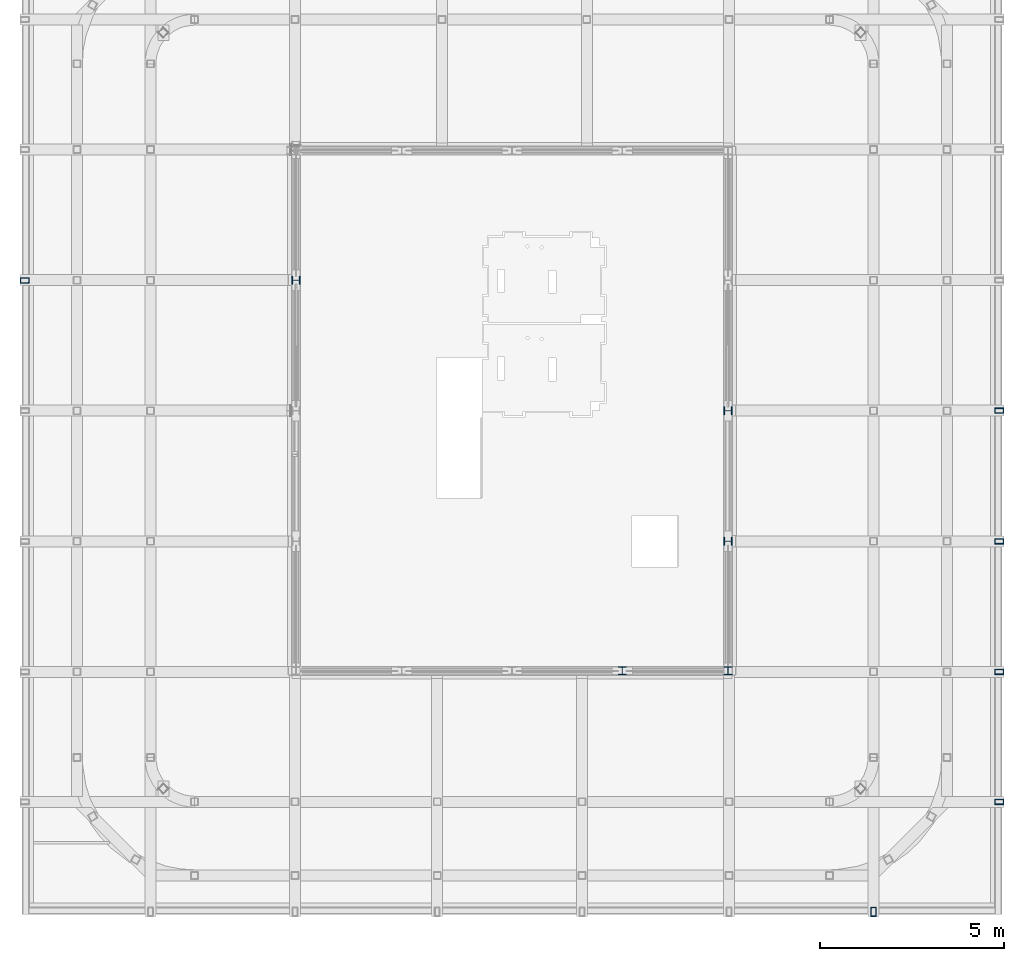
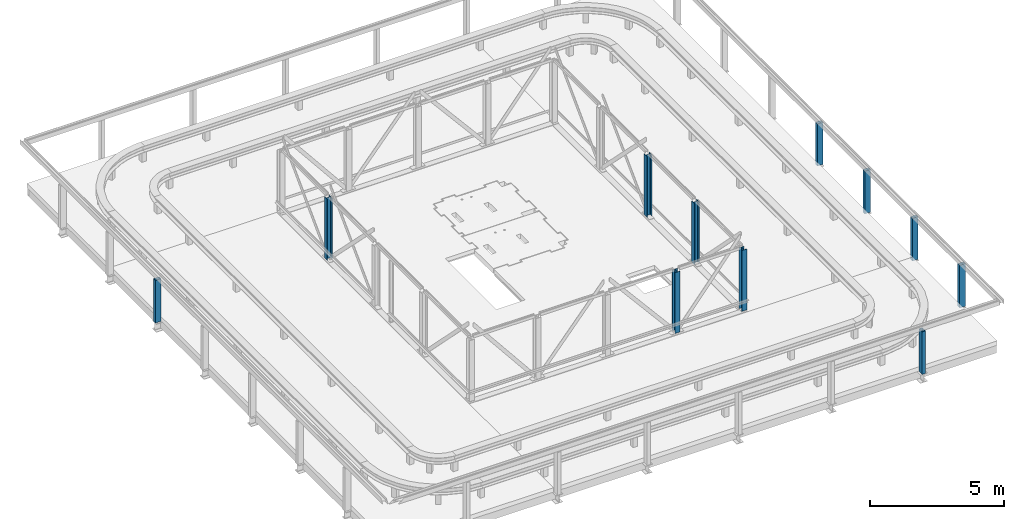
# One storey, part 3 of 27: 11 columns.
"""IFC2X3 building model written with IfcOpenShell, lengths in millimetres."""

from ifc_helpers import new_model, entity, si_unit, converted_unit, derived_unit, direction, frame, frame_2d, origin, place, context, subcontext, project, spatial, polyline, circle_curve, parameter, trimmed, segment, composite_curve, i_section, outline, extrude, source, transform, mapped, material, type_object, type_shapes, element, save


model = new_model("IFC2X3")

# Units and contexts
model_context = context("Model", 3, precision=0.01, world=origin(), true_north=direction((6.12303176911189e-17, 1.0)))
body_context = subcontext(model_context, "Body", "Model", "MODEL_VIEW")
ifc_project = project(units=[si_unit("LENGTHUNIT", "METRE", prefix="MILLI"), si_unit("AREAUNIT", "SQUARE_METRE"), si_unit("VOLUMEUNIT", "CUBIC_METRE"), converted_unit("PLANEANGLEUNIT", "DEGREE", entity("IfcRatioMeasure", 0.0174532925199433), si_unit("PLANEANGLEUNIT", "RADIAN"), dimensions=[0, 0, 0, 0, 0, 0, 0]), si_unit("MASSUNIT", "GRAM", prefix="KILO"), derived_unit("MASSDENSITYUNIT", [(si_unit("MASSUNIT", "GRAM", prefix="KILO"), 1), (si_unit("LENGTHUNIT", "METRE"), -3)]), si_unit("TIMEUNIT", "SECOND"), si_unit("FREQUENCYUNIT", "HERTZ"), si_unit("THERMODYNAMICTEMPERATUREUNIT", "DEGREE_CELSIUS"), derived_unit("THERMALTRANSMITTANCEUNIT", [(si_unit("MASSUNIT", "GRAM", prefix="KILO"), 1), (si_unit("THERMODYNAMICTEMPERATUREUNIT", "KELVIN"), -1), (si_unit("TIMEUNIT", "SECOND"), -3)]), derived_unit("VOLUMETRICFLOWRATEUNIT", [(si_unit("LENGTHUNIT", "METRE"), 3), (si_unit("TIMEUNIT", "SECOND"), -1)]), si_unit("ELECTRICCURRENTUNIT", "AMPERE"), si_unit("ELECTRICVOLTAGEUNIT", "VOLT"), si_unit("POWERUNIT", "WATT"), si_unit("FORCEUNIT", "NEWTON", prefix="KILO"), si_unit("ILLUMINANCEUNIT", "LUX"), si_unit("LUMINOUSFLUXUNIT", "LUMEN"), si_unit("LUMINOUSINTENSITYUNIT", "CANDELA"), derived_unit("USERDEFINED", [(si_unit("MASSUNIT", "GRAM", prefix="KILO"), -1), (si_unit("LENGTHUNIT", "METRE"), -2), (si_unit("TIMEUNIT", "SECOND"), 3), (si_unit("LUMINOUSFLUXUNIT", "LUMEN"), 1)]), derived_unit("LINEARVELOCITYUNIT", [(si_unit("LENGTHUNIT", "METRE"), 1), (si_unit("TIMEUNIT", "SECOND"), -1)]), si_unit("PRESSUREUNIT", "PASCAL"), derived_unit("USERDEFINED", [(si_unit("LENGTHUNIT", "METRE"), -2), (si_unit("MASSUNIT", "GRAM", prefix="KILO"), 1), (si_unit("TIMEUNIT", "SECOND"), -2)])], contexts=[model_context])

# Site, building, storey
site_placement = place(None, origin())
site = spatial("IfcSite", under=ifc_project, at=site_placement, Name="Default", CompositionType="ELEMENT")
building_placement = place(site_placement, origin())
building = spatial("IfcBuilding", under=site, at=building_placement, Name="niet gebruiken", CompositionType="ELEMENT")
storey_placement = place(building_placement, frame((0.0, 0.0, 187640.0)))
storey = spatial("IfcBuildingStorey", under=building, at=storey_placement, Name="59 negenenvijftigste verdieping", CompositionType="ELEMENT", Elevation=187640.0)

# Columns
ifc_material = material(Name="NLRS_h2_staal")
column_type_1 = type_object("IfcColumnType", Name="kolom HEB 220", PredefinedType="COLUMN", material=ifc_material)
shared_shape_1 = source(origin(), body_context, "Body", "SweptSolid", [
    extrude(i_section(OverallWidth=220.000000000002, OverallDepth=219.999999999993, WebThickness=9.49999999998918, FlangeThickness=16.0000000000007, FilletRadius=17.9999999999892, at=frame_2d((0.0, -8.66862137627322e-12), x_axis=(0.0, 1.0))), frame((147625.0, 10425.0, 187635.0), z_axis=(0.0, 0.0, 1.0), x_axis=(0.0, -1.0, 0.0)), (0.0, 0.0, 1.0), 2775.00000000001),
])
type_shapes(column_type_1, [shared_shape_1])
column_1_placement = place(storey_placement, frame((0.0, 0.0, -187640.0)))
element("IfcColumn", 1, at=column_1_placement, inside=storey, type_object=column_type_1, material=ifc_material, Name="NLRS_28.11_SCO_TLB_stalen kolom HEB_gen:kolom HEB 220", ObjectType="kolom HEB 220", context=body_context, shape_type="MappedRepresentation", body=[
    mapped(shared_shape_1, transform((0.0, 0.0, 0.0), scale=1.0)),
])
column_type_2 = type_object("IfcColumnType", Name="kolom HEB 220", PredefinedType="COLUMN", material=ifc_material)
shared_shape_2 = source(origin(), body_context, "Body", "SweptSolid", [
    extrude(i_section(OverallWidth=220.0, OverallDepth=219.999999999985, WebThickness=9.50000000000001, FlangeThickness=15.9999999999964, FilletRadius=17.9999999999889, at=frame_2d((2.16715534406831e-12, 0.0), x_axis=(1.0, 0.0))), frame((147625.0, 17500.0, 187635.0), z_axis=(0.0, 0.0, 1.0), x_axis=(0.0, -1.0, 0.0)), (0.0, 0.0, 1.0), 2775.00000000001),
])
type_shapes(column_type_2, [shared_shape_2])
column_2_placement = place(storey_placement, frame((0.0, 0.0, -187640.0)))
element("IfcColumn", 2, at=column_2_placement, inside=storey, type_object=column_type_2, material=ifc_material, Name="NLRS_28.11_SCO_TLB_stalen kolom HEB_gen:kolom HEB 220", ObjectType="kolom HEB 220", context=body_context, shape_type="MappedRepresentation", body=[
    mapped(shared_shape_2, transform((0.0, 0.0, 0.0), scale=1.0)),
])
column_type_3 = type_object("IfcColumnType", Name="kolom HEB 220", PredefinedType="COLUMN", material=ifc_material)
shared_shape_3 = source(origin(), body_context, "Body", "SweptSolid", [
    extrude(i_section(OverallWidth=220.000000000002, OverallDepth=219.999999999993, WebThickness=9.49999999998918, FlangeThickness=16.0000000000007, FilletRadius=17.9999999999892, at=frame_2d((0.0, 8.66862137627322e-12), x_axis=(0.0, 1.0))), frame((144750.0, 10425.0, 187635.0), z_axis=(0.0, 0.0, 1.0), x_axis=(0.0, -1.0, 0.0)), (0.0, 0.0, 1.0), 2775.00000000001),
])
type_shapes(column_type_3, [shared_shape_3])
column_3_placement = place(storey_placement, frame((0.0, 0.0, -187640.0)))
element("IfcColumn", 3, at=column_3_placement, inside=storey, type_object=column_type_3, material=ifc_material, Name="NLRS_28.11_SCO_TLB_stalen kolom HEB_gen:kolom HEB 220", ObjectType="kolom HEB 220", context=body_context, shape_type="MappedRepresentation", body=[
    mapped(shared_shape_3, transform((0.0, 0.0, 0.0), scale=1.0)),
])
column_type_4 = type_object("IfcColumnType", Name="kolom HEB 220", PredefinedType="COLUMN", material=ifc_material)
shared_shape_4 = source(origin(), body_context, "Body", "SweptSolid", [
    extrude(i_section(OverallWidth=219.999999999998, OverallDepth=219.999999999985, WebThickness=9.50000000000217, FlangeThickness=15.9999999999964, FilletRadius=17.9999999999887, at=frame_2d((-4.33431068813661e-12, 0.0), x_axis=(1.0, 0.0))), frame((135875.0, 21050.0, 187635.0), z_axis=(0.0, 0.0, 1.0), x_axis=(0.0, -1.0, 0.0)), (0.0, 0.0, 1.0), 2775.00000000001),
])
type_shapes(column_type_4, [shared_shape_4])
column_4_placement = place(storey_placement, frame((0.0, 0.0, -187640.0)))
element("IfcColumn", 4, at=column_4_placement, inside=storey, type_object=column_type_4, material=ifc_material, Name="NLRS_28.11_SCO_TLB_stalen kolom HEB_gen:kolom HEB 220", ObjectType="kolom HEB 220", context=body_context, shape_type="MappedRepresentation", body=[
    mapped(shared_shape_4, transform((0.0, 0.0, 0.0), scale=1.0)),
])
column_type_5 = type_object("IfcColumnType", Name="kolom HEB 220", PredefinedType="COLUMN", material=ifc_material)
shared_shape_5 = source(origin(), body_context, "Body", "SweptSolid", [
    extrude(i_section(OverallWidth=220.0, OverallDepth=219.999999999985, WebThickness=9.50000000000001, FlangeThickness=15.9999999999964, FilletRadius=17.9999999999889, at=frame_2d((2.16715534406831e-12, -1.73301373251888e-11), x_axis=(1.0, 0.0))), frame((147625.0, 13950.0, 187635.0), z_axis=(0.0, 0.0, 1.0), x_axis=(0.0, -1.0, 0.0)), (0.0, 0.0, 1.0), 2775.00000000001),
])
type_shapes(column_type_5, [shared_shape_5])
column_5_placement = place(storey_placement, frame((0.0, 0.0, -187640.0)))
element("IfcColumn", 5, at=column_5_placement, inside=storey, type_object=column_type_5, material=ifc_material, Name="NLRS_28.11_SCO_TLB_stalen kolom HEB_gen:kolom HEB 220", ObjectType="kolom HEB 220", context=body_context, shape_type="MappedRepresentation", body=[
    mapped(shared_shape_5, transform((0.0, 0.0, 0.0), scale=1.0)),
])
column_type_6 = type_object("IfcColumnType", Name="kolom buisprofiel rechthoekig RHSH_250x150x16", PredefinedType="COLUMN", material=ifc_material)
shared_shape_6 = source(origin(), body_context, "Body", "SweptSolid", [
    extrude(outline(polyline([(-125.0, -75.0), (125.0, -75.0), (125.0, 75.0), (-125.0, 75.0), (-125.0, -75.0)]), holes=[composite_curve([segment(trimmed(circle_curve(frame_2d((-96.5000000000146, -46.5000000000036), x_axis=(0.0, 1.0)), 12.5), [parameter(90.0)], [parameter(180.0)], True, "PARAMETER"), False, "CONTINUOUS"), segment(polyline([(-109.0, -46.5), (-109.0, 46.4999999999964)]), True, "CONTINUOUS"), segment(trimmed(circle_curve(frame_2d((-96.5000000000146, 46.4999999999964), x_axis=(0.0, 1.0)), 12.5), [parameter(360.0)], [parameter(89.9999999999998)], True, "PARAMETER"), False, "CONTINUOUS"), segment(polyline([(-96.5, 59.0), (96.4999999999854, 59.0)]), True, "CONTINUOUS"), segment(trimmed(circle_curve(frame_2d((96.4999999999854, 46.4999999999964), x_axis=(0.0, 1.0)), 12.5), [parameter(270.0)], [parameter(360.0)], True, "PARAMETER"), False, "CONTINUOUS"), segment(polyline([(109.0, 46.4999999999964), (109.0, -46.5)]), True, "CONTINUOUS"), segment(trimmed(circle_curve(frame_2d((96.4999999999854, -46.5000000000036), x_axis=(0.0, 1.0)), 12.5), [parameter(180.0)], [parameter(270.0)], True, "PARAMETER"), False, "CONTINUOUS"), segment(polyline([(96.4999999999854, -59.0), (-96.5, -59.0)]), True, "CONTINUOUS")], self_intersect=False)]), frame((128495.0, 21045.0, 187350.0)), (0.0, 0.0, 1.0), 1940.00000000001),
])
type_shapes(column_type_6, [shared_shape_6])
column_6_placement = place(storey_placement, frame((0.0, 0.0, -187640.0)))
element("IfcColumn", 6, at=column_6_placement, inside=storey, type_object=column_type_6, material=ifc_material, Name="NLRS_28.11_SCO_TLB_stalen kolom buisprofiel rechthoekig_gen:kolom buisprofiel rechthoekig RHSH_250x150x16", ObjectType="kolom buisprofiel rechthoekig RHSH_250x150x16", context=body_context, shape_type="MappedRepresentation", body=[
    mapped(shared_shape_6, transform((0.0, 0.0, 0.0), scale=1.0)),
])
column_type_7 = type_object("IfcColumnType", Name="kolom buisprofiel rechthoekig RHSH_250x150x16", PredefinedType="COLUMN", material=ifc_material)
shared_shape_7 = source(origin(), body_context, "Body", "SweptSolid", [
    extrude(outline(polyline([(-125.0, -75.0), (125.0, -75.0), (125.0, 75.0), (-125.0, 75.0), (-125.0, -75.0)]), holes=[composite_curve([segment(trimmed(circle_curve(frame_2d((-96.5, -46.5), x_axis=(0.0, 1.0)), 12.5), [parameter(90.0)], [parameter(180.0)], True, "PARAMETER"), False, "CONTINUOUS"), segment(polyline([(-109.0, -46.5), (-109.0, 46.5)]), True, "CONTINUOUS"), segment(trimmed(circle_curve(frame_2d((-96.5, 46.5), x_axis=(0.0, 1.0)), 12.5), [parameter(360.0)], [parameter(89.9999999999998)], True, "PARAMETER"), False, "CONTINUOUS"), segment(polyline([(-96.5, 59.0), (96.5, 59.0)]), True, "CONTINUOUS"), segment(trimmed(circle_curve(frame_2d((96.5, 46.5), x_axis=(0.0, 1.0)), 12.5), [parameter(270.0)], [parameter(360.0)], True, "PARAMETER"), False, "CONTINUOUS"), segment(polyline([(109.0, 46.5), (109.0, -46.5)]), True, "CONTINUOUS"), segment(trimmed(circle_curve(frame_2d((96.5, -46.5), x_axis=(0.0, 1.0)), 12.5), [parameter(180.0)], [parameter(270.0)], True, "PARAMETER"), False, "CONTINUOUS"), segment(polyline([(96.5, -59.0), (-96.5, -59.0)]), True, "CONTINUOUS")], self_intersect=False)]), frame((155005.0, 17500.3287196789, 187375.0)), (0.0, 0.0, 1.0), 1915.0),
])
type_shapes(column_type_7, [shared_shape_7])
column_7_placement = place(storey_placement, frame((0.0, 0.0, -187640.0)))
element("IfcColumn", 7, at=column_7_placement, inside=storey, type_object=column_type_7, material=ifc_material, Name="NLRS_28.11_SCO_TLB_stalen kolom buisprofiel rechthoekig_gen:kolom buisprofiel rechthoekig RHSH_250x150x16", ObjectType="kolom buisprofiel rechthoekig RHSH_250x150x16", context=body_context, shape_type="MappedRepresentation", body=[
    mapped(shared_shape_7, transform((0.0, 0.0, 0.0), scale=1.0)),
])
column_type_8 = type_object("IfcColumnType", Name="kolom buisprofiel rechthoekig RHSH_250x150x16", PredefinedType="COLUMN", material=ifc_material)
shared_shape_8 = source(origin(), body_context, "Body", "SweptSolid", [
    extrude(outline(polyline([(-125.0, -75.0), (125.0, -75.0), (125.0, 75.0), (-125.0, 75.0), (-125.0, -75.0)]), holes=[composite_curve([segment(trimmed(circle_curve(frame_2d((-96.5, -46.5), x_axis=(0.0, 1.0)), 12.5), [parameter(90.0)], [parameter(180.0)], True, "PARAMETER"), False, "CONTINUOUS"), segment(polyline([(-109.0, -46.5), (-109.0, 46.5)]), True, "CONTINUOUS"), segment(trimmed(circle_curve(frame_2d((-96.5, 46.5), x_axis=(0.0, 1.0)), 12.5), [parameter(360.0)], [parameter(89.9999999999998)], True, "PARAMETER"), False, "CONTINUOUS"), segment(polyline([(-96.5, 59.0), (96.5, 59.0)]), True, "CONTINUOUS"), segment(trimmed(circle_curve(frame_2d((96.5, 46.5), x_axis=(0.0, 1.0)), 12.5), [parameter(270.0)], [parameter(360.0)], True, "PARAMETER"), False, "CONTINUOUS"), segment(polyline([(109.0, 46.5), (109.0, -46.5)]), True, "CONTINUOUS"), segment(trimmed(circle_curve(frame_2d((96.5, -46.5), x_axis=(0.0, 1.0)), 12.5), [parameter(180.0)], [parameter(270.0)], True, "PARAMETER"), False, "CONTINUOUS"), segment(polyline([(96.5, -59.0), (-96.5, -59.0)]), True, "CONTINUOUS")], self_intersect=False)]), frame((155005.0, 13950.0, 187350.0)), (0.0, 0.0, 1.0), 1940.00000000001),
])
type_shapes(column_type_8, [shared_shape_8])
column_8_placement = place(storey_placement, frame((0.0, 0.0, -187640.0)))
element("IfcColumn", 8, at=column_8_placement, inside=storey, type_object=column_type_8, material=ifc_material, Name="NLRS_28.11_SCO_TLB_stalen kolom buisprofiel rechthoekig_gen:kolom buisprofiel rechthoekig RHSH_250x150x16", ObjectType="kolom buisprofiel rechthoekig RHSH_250x150x16", context=body_context, shape_type="MappedRepresentation", body=[
    mapped(shared_shape_8, transform((0.0, 0.0, 0.0), scale=1.0)),
])
column_type_9 = type_object("IfcColumnType", Name="kolom buisprofiel rechthoekig RHSH_250x150x16", PredefinedType="COLUMN", material=ifc_material)
shared_shape_9 = source(origin(), body_context, "Body", "SweptSolid", [
    extrude(outline(polyline([(-125.0, -75.0), (125.0, -75.0), (125.0, 75.0), (-125.0, 75.0), (-125.0, -75.0)]), holes=[composite_curve([segment(trimmed(circle_curve(frame_2d((-96.5, -46.5), x_axis=(0.0, 1.0)), 12.5), [parameter(90.0)], [parameter(180.0)], True, "PARAMETER"), False, "CONTINUOUS"), segment(polyline([(-109.0, -46.5), (-109.0, 46.5)]), True, "CONTINUOUS"), segment(trimmed(circle_curve(frame_2d((-96.5, 46.5), x_axis=(0.0, 1.0)), 12.5), [parameter(360.0)], [parameter(89.9999999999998)], True, "PARAMETER"), False, "CONTINUOUS"), segment(polyline([(-96.5, 59.0), (96.5, 59.0)]), True, "CONTINUOUS"), segment(trimmed(circle_curve(frame_2d((96.5, 46.5), x_axis=(0.0, 1.0)), 12.5), [parameter(270.0)], [parameter(360.0)], True, "PARAMETER"), False, "CONTINUOUS"), segment(polyline([(109.0, 46.5), (109.0, -46.5)]), True, "CONTINUOUS"), segment(trimmed(circle_curve(frame_2d((96.5, -46.5), x_axis=(0.0, 1.0)), 12.5), [parameter(180.0)], [parameter(270.0)], True, "PARAMETER"), False, "CONTINUOUS"), segment(polyline([(96.5, -59.0), (-96.5, -59.0)]), True, "CONTINUOUS")], self_intersect=False)]), frame((155005.0, 10400.3287196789, 187350.0)), (0.0, 0.0, 1.0), 1940.00000000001),
])
type_shapes(column_type_9, [shared_shape_9])
column_9_placement = place(storey_placement, frame((0.0, 0.0, -187640.0)))
element("IfcColumn", 9, at=column_9_placement, inside=storey, type_object=column_type_9, material=ifc_material, Name="NLRS_28.11_SCO_TLB_stalen kolom buisprofiel rechthoekig_gen:kolom buisprofiel rechthoekig RHSH_250x150x16", ObjectType="kolom buisprofiel rechthoekig RHSH_250x150x16", context=body_context, shape_type="MappedRepresentation", body=[
    mapped(shared_shape_9, transform((0.0, 0.0, 0.0), scale=1.0)),
])
column_type_10 = type_object("IfcColumnType", Name="kolom buisprofiel rechthoekig RHSH_250x150x16", PredefinedType="COLUMN", material=ifc_material)
shared_shape_10 = source(origin(), body_context, "Body", "SweptSolid", [
    extrude(outline(polyline([(-125.0, -75.0), (125.0, -75.0), (125.0, 75.0), (-125.0, 75.0), (-125.0, -75.0)]), holes=[composite_curve([segment(trimmed(circle_curve(frame_2d((-96.5, -46.5), x_axis=(0.0, 1.0)), 12.5), [parameter(90.0)], [parameter(180.0)], True, "PARAMETER"), False, "CONTINUOUS"), segment(polyline([(-109.0, -46.5), (-109.0, 46.5000000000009)]), True, "CONTINUOUS"), segment(trimmed(circle_curve(frame_2d((-96.5, 46.5000000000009), x_axis=(0.0, 1.0)), 12.5), [parameter(360.0)], [parameter(89.9999999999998)], True, "PARAMETER"), False, "CONTINUOUS"), segment(polyline([(-96.5, 59.0), (96.5, 59.0)]), True, "CONTINUOUS"), segment(trimmed(circle_curve(frame_2d((96.5, 46.5000000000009), x_axis=(0.0, 1.0)), 12.5), [parameter(270.0)], [parameter(360.0)], True, "PARAMETER"), False, "CONTINUOUS"), segment(polyline([(109.0, 46.4999999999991), (109.0, -46.5)]), True, "CONTINUOUS"), segment(trimmed(circle_curve(frame_2d((96.5, -46.5), x_axis=(0.0, 1.0)), 12.5), [parameter(180.0)], [parameter(270.0)], True, "PARAMETER"), False, "CONTINUOUS"), segment(polyline([(96.5, -59.0), (-96.5, -59.0)]), True, "CONTINUOUS")], self_intersect=False)]), frame((155005.0, 6865.0, 187350.0)), (0.0, 0.0, 1.0), 1940.00000000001),
])
type_shapes(column_type_10, [shared_shape_10])
column_10_placement = place(storey_placement, frame((0.0, 0.0, -187640.0)))
element("IfcColumn", 10, at=column_10_placement, inside=storey, type_object=column_type_10, material=ifc_material, Name="NLRS_28.11_SCO_TLB_stalen kolom buisprofiel rechthoekig_gen:kolom buisprofiel rechthoekig RHSH_250x150x16", ObjectType="kolom buisprofiel rechthoekig RHSH_250x150x16", context=body_context, shape_type="MappedRepresentation", body=[
    mapped(shared_shape_10, transform((0.0, 0.0, 0.0), scale=1.0)),
])
column_type_11 = type_object("IfcColumnType", Name="kolom buisprofiel rechthoekig RHSH_250x150x16", PredefinedType="COLUMN", material=ifc_material)
shared_shape_11 = source(origin(), body_context, "Body", "SweptSolid", [
    extrude(outline(polyline([(-125.0, -75.0), (125.0, -75.0), (125.0, 75.0), (-125.0, 75.0), (-125.0, -75.0)]), holes=[composite_curve([segment(trimmed(circle_curve(frame_2d((-96.500000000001, -46.4999999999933), x_axis=(0.0, 1.0)), 12.5), [parameter(90.0)], [parameter(180.0)], True, "PARAMETER"), False, "CONTINUOUS"), segment(polyline([(-109.0, -46.5000000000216), (-109.0, 46.4999999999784)]), True, "CONTINUOUS"), segment(trimmed(circle_curve(frame_2d((-96.5, 46.5000000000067), x_axis=(0.0, 1.0)), 12.5), [parameter(360.0)], [parameter(89.9999999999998)], True, "PARAMETER"), False, "CONTINUOUS"), segment(polyline([(-96.5, 59.0), (96.5, 59.0)]), True, "CONTINUOUS"), segment(trimmed(circle_curve(frame_2d((96.5, 46.4999999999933), x_axis=(0.0, 1.0)), 12.5), [parameter(270.0)], [parameter(360.0)], True, "PARAMETER"), False, "CONTINUOUS"), segment(polyline([(109.0, 46.4999999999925), (109.0, -46.5000000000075)]), True, "CONTINUOUS"), segment(trimmed(circle_curve(frame_2d((96.499999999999, -46.5000000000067), x_axis=(0.0, 1.0)), 12.5), [parameter(180.0)], [parameter(270.0)], True, "PARAMETER"), False, "CONTINUOUS"), segment(polyline([(96.4999999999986, -59.0), (-96.5000000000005, -59.0)]), True, "CONTINUOUS")], self_intersect=False)]), frame((151583.333333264, 3870.0, 187350.0), z_axis=(0.0, 0.0, 1.0), x_axis=(0.0, 1.0, 0.0)), (0.0, 0.0, 1.0), 1940.00000000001),
])
type_shapes(column_type_11, [shared_shape_11])
column_11_placement = place(storey_placement, frame((0.0, 0.0, -187640.0)))
element("IfcColumn", 11, at=column_11_placement, inside=storey, type_object=column_type_11, material=ifc_material, Name="NLRS_28.11_SCO_TLB_stalen kolom buisprofiel rechthoekig_gen:kolom buisprofiel rechthoekig RHSH_250x150x16", ObjectType="kolom buisprofiel rechthoekig RHSH_250x150x16", context=body_context, shape_type="MappedRepresentation", body=[
    mapped(shared_shape_11, transform((0.0, 0.0, 0.0), scale=1.0)),
])

save(model, "model.ifc")
